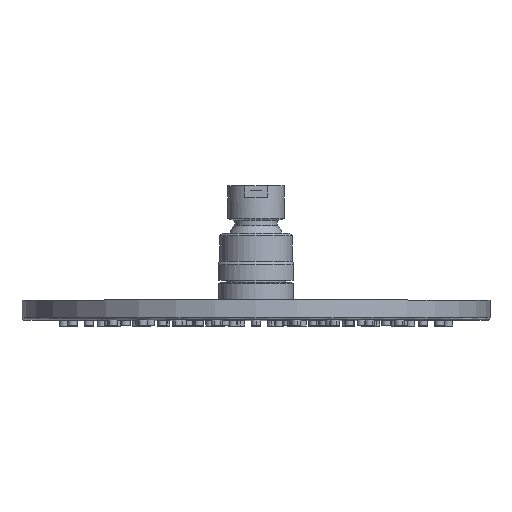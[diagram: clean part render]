
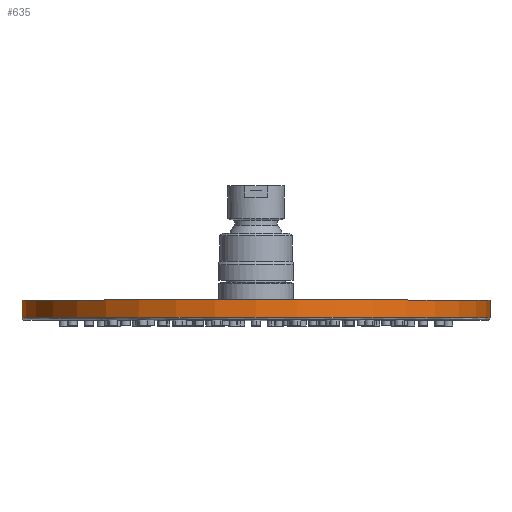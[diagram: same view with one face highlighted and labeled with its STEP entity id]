
A CAD part, top view. The second image highlights one B-rep face of the part: STEP entity #635.
In plain terms, the highlighted cylindrical face has radius 100 mm (diameter 200 mm), a partial arc.
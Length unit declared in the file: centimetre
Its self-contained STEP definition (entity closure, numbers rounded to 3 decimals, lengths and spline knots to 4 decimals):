
#12=CYLINDRICAL_SURFACE('',#11895,10.);
#635=ADVANCED_FACE('',(#1613),#12,.T.);
#1613=FACE_OUTER_BOUND('',#2479,.T.);
#2479=EDGE_LOOP('',(#3987,#3988,#3989,#3990));
#3987=ORIENTED_EDGE('',*,*,#6478,.F.);
#3988=ORIENTED_EDGE('',*,*,#6481,.T.);
#3989=ORIENTED_EDGE('',*,*,#6480,.T.);
#3990=ORIENTED_EDGE('',*,*,#6479,.T.);
#6478=EDGE_CURVE('',#10759,#10760,#7824,.T.);
#6479=EDGE_CURVE('',#10761,#10760,#9759,.T.);
#6480=EDGE_CURVE('',#10762,#10761,#7825,.T.);
#6481=EDGE_CURVE('',#10759,#10762,#9760,.T.);
#7824=TRIMMED_CURVE($,#8704,(#19429),(#19430),.T.,.CARTESIAN.);
#7825=TRIMMED_CURVE($,#8705,(#19434),(#19435),.T.,.CARTESIAN.);
#8704=CIRCLE('',#12412,10.);
#8705=CIRCLE('',#12413,10.);
#9759=B_SPLINE_CURVE_WITH_KNOTS('',1,(#19431,#19432),.UNSPECIFIED.,.F.,
 .F.,(2,2),(-7.5,0.),.UNSPECIFIED.);
#9760=B_SPLINE_CURVE_WITH_KNOTS('',1,(#19436,#19437),.UNSPECIFIED.,.F.,
 .F.,(2,2),(-7.5,0.),.UNSPECIFIED.);
#10759=VERTEX_POINT('',#18911);
#10760=VERTEX_POINT('',#18912);
#10761=VERTEX_POINT('',#18913);
#10762=VERTEX_POINT('',#18914);
#11895=AXIS2_PLACEMENT_3D('',#17027,#13485,$);
#12412=AXIS2_PLACEMENT_3D($,#19428,#14009,#14010);
#12413=AXIS2_PLACEMENT_3D($,#19433,#14011,#14012);
#13485=DIRECTION('',(0.,-1.,0.));
#14009=DIRECTION('',(0.,-1.,0.));
#14010=DIRECTION('',(1.,0.,0.));
#14011=DIRECTION('',(0.,-1.,0.));
#14012=DIRECTION('',(1.,0.,0.));
#17027=CARTESIAN_POINT('',(0.,0.475,0.));
#18911=CARTESIAN_POINT('',(10.,0.1,0.));
#18912=CARTESIAN_POINT('',(-10.,0.1,0.));
#18913=CARTESIAN_POINT('',(-10.,0.85,0.));
#18914=CARTESIAN_POINT('',(10.,0.85,0.));
#19428=CARTESIAN_POINT('',(0.,0.1,0.));
#19429=CARTESIAN_POINT('',(10.,0.1,0.));
#19430=CARTESIAN_POINT('',(-10.,0.1,0.));
#19431=CARTESIAN_POINT('',(-10.,0.85,0.));
#19432=CARTESIAN_POINT('',(-10.,0.1,0.));
#19433=CARTESIAN_POINT('',(0.,0.85,0.));
#19434=CARTESIAN_POINT('',(10.,0.85,0.));
#19435=CARTESIAN_POINT('',(-10.,0.85,0.));
#19436=CARTESIAN_POINT('',(10.,0.1,0.));
#19437=CARTESIAN_POINT('',(10.,0.85,0.));
